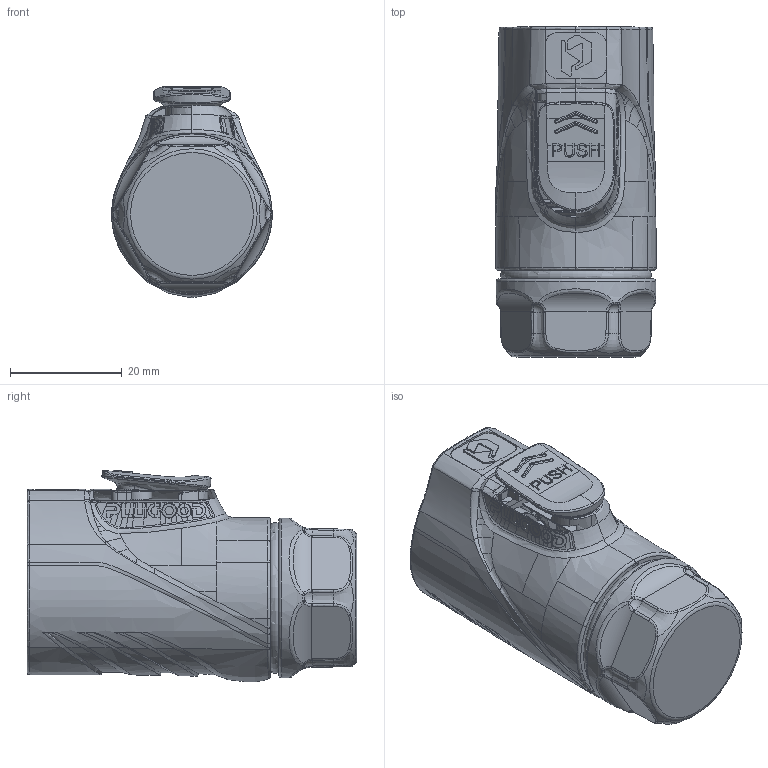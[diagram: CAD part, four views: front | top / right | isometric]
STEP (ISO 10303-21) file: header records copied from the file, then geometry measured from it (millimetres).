
FILE_DESCRIPTION (( 'STEP AP203' ), '1' );
FILE_NAME ('PLG20 9Ð¾²åÍ·.STEP', '2025-03-20T02:12:37', ( '' ), ( '' ), 'SwSTEP 2.0', 'SolidWorks 2024', '' );
FILE_SCHEMA (( 'CONFIG_CONTROL_DESIGN' ));
Length unit declared in the file: millimetre
Products named in the file (1): PLG20 9芯插头
Bounding box: 28.77 x 59.1 x 37.93 mm (x, y, z)
Topology: 2 solids, 7 shells, 1254 faces, 3377 edges, 2156 vertices
Faces by surface type: bspline 701, plane 304, cylinder 138, torus 54, cone 38, sphere 19
Full cylindrical faces by diameter (mm): 1 x9, 1.15 x9, 1.5 x2, 1.519 x1, 1.6 x2, 2.5 x1, 2.65 x1, 4.5 x1, 16.2 x1, 17.5 x1, 17.6 x1, 19.2 x2, 19.3 x2, 19.4 x2, 22.033 x3, 28.6 x1
Entity records: 94675 total; most frequent: CARTESIAN_POINT 70028, ORIENTED_EDGE 6438, EDGE_CURVE 3219, DIRECTION 2825, VERTEX_POINT 2090, B_SPLINE_CURVE_WITH_KNOTS 1868, EDGE_LOOP 1375, FACE_OUTER_BOUND 1310
